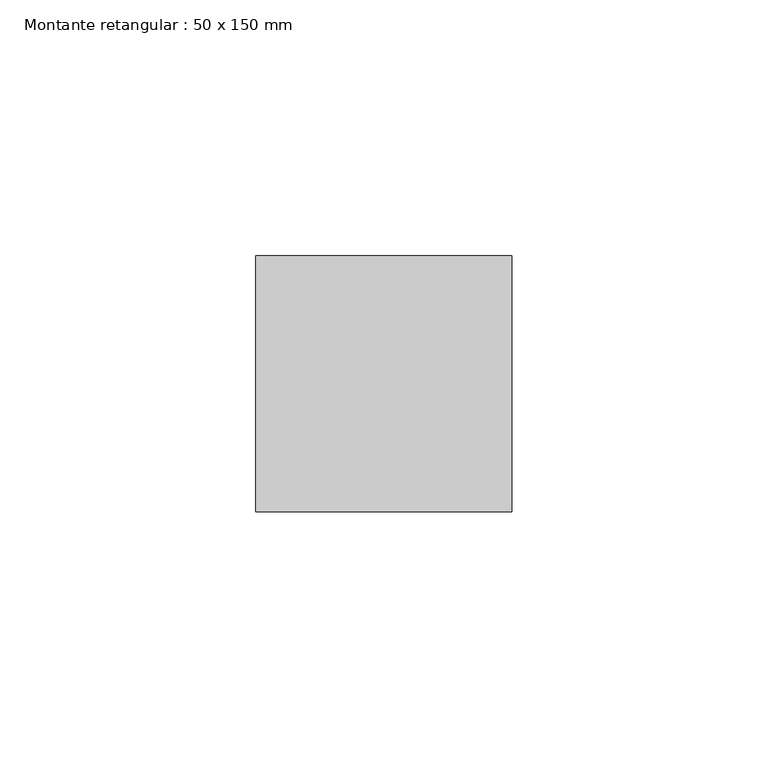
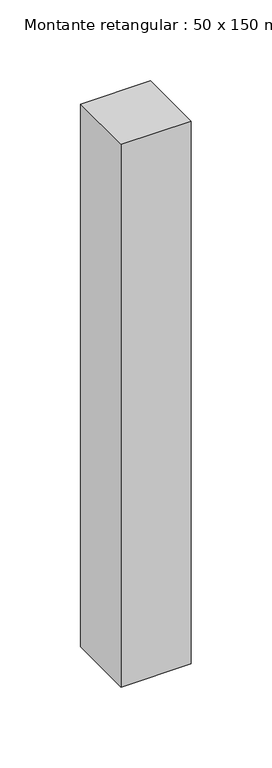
"""IFC4 building model written with IfcOpenShell, lengths in millimetres: member geometry, Montante retangular : 50 x 150 mm."""

from ifc_helpers import new_model, si_unit, frame, origin, place, context, project, spatial, polyline, outline, extrude, source, transform, mapped, element, save


def montante_retangular_50_x_150_mm_d82da7ad(model_context):
    return source(origin(), model_context, "Body", "SweptSolid", [
        extrude(outline(polyline([(25.0, 25.0), (25.0, -25.0), (-25.0, -25.0), (-25.0, 25.0), (25.0, 25.0)])), frame((0.0, 0.0, -409.7437176), z_axis=(0.0, 0.0, 1.0), x_axis=(1.0, 0.0, 0.0)), (0.0, 0.0, 1.0), 409.7437176),
    ])


if __name__ == "__main__":
    model = new_model("IFC4")
    model_context = context("Model", 3, world=origin())
    ifc_project = project(units=[si_unit("LENGTHUNIT", "METRE", prefix="MILLI")], contexts=[model_context])
    site = spatial("IfcSite", under=ifc_project)
    building = spatial("IfcBuilding", under=site)
    placement = place(None, origin())
    montante_retangular_50_x_150_mm_shape = montante_retangular_50_x_150_mm_d82da7ad(model_context)
    element("IfcMember", 1, ObjectType="Montante retangular : 50 x 150 mm", at=placement, inside=building, context=model_context, shape_type="MappedRepresentation", body=[
        mapped(montante_retangular_50_x_150_mm_shape, transform((0.0, 0.0, 0.0), x_axis=(1.0, 0.0, 0.0), y_axis=(0.0, 1.0, 0.0), z_axis=(0.0, 0.0, 1.0))),
    ])
    save(model, "model.ifc")
